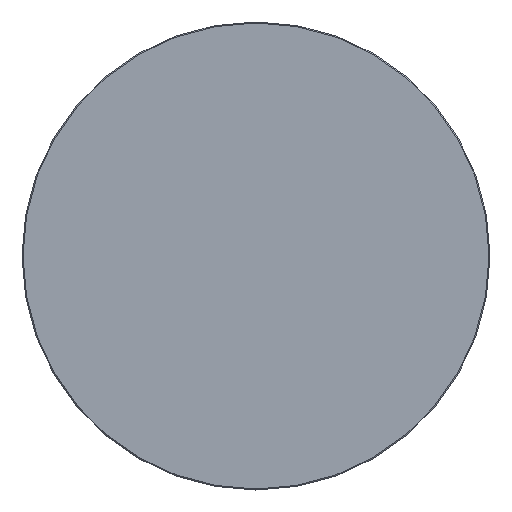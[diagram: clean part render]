
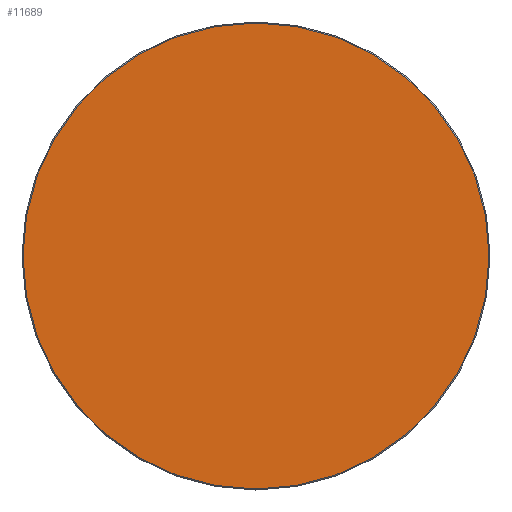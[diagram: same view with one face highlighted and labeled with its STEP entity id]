
A CAD part, top view. The second image highlights one B-rep face of the part: STEP entity #11689.
In plain terms, the highlighted planar face has unit normal (0, 0, 1).
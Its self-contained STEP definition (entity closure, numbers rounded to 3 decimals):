
#11614=CARTESIAN_POINT('',(0.,0.,20.));
#11615=DIRECTION('',(1.,0.,0.));
#11616=DIRECTION('',(0.,0.,1.));
#11617=AXIS2_PLACEMENT_3D('',#11614,#11616,#11615);
#11618=PLANE('',#11617);
#11619=CARTESIAN_POINT('',(-0.5,-348.5,20.));
#11620=VERTEX_POINT('',#11619);
#11621=CARTESIAN_POINT('',(0.5,-348.5,20.));
#11622=VERTEX_POINT('',#11621);
#11623=CARTESIAN_POINT('',(-0.5,-348.5,20.));
#11624=DIRECTION('',(1.,0.,0.));
#11625=VECTOR('',#11624,1.);
#11626=LINE('',#11623,#11625);
#11627=EDGE_CURVE('',#11620,#11622,#11626,.T.);
#11628=ORIENTED_EDGE('E105',*,*,#11627,.T.);
#11629=CARTESIAN_POINT('',(348.5,-0.5,20.));
#11630=VERTEX_POINT('',#11629);
#11631=CARTESIAN_POINT('',(0.5,-0.5,20.));
#11632=DIRECTION('',(0.,-1.,0.));
#11633=DIRECTION('',(0.,-0.,1.));
#11634=AXIS2_PLACEMENT_3D('',#11631,#11633,#11632);
#11635=CIRCLE('',#11634,348.);
#11636=EDGE_CURVE('',#11622,#11630,#11635,.T.);
#11637=ORIENTED_EDGE('E107',*,*,#11636,.T.);
#11638=CARTESIAN_POINT('',(348.5,0.5,20.));
#11639=VERTEX_POINT('',#11638);
#11640=CARTESIAN_POINT('',(348.5,-0.5,20.));
#11641=DIRECTION('',(0.,1.,0.));
#11642=VECTOR('',#11641,1.);
#11643=LINE('',#11640,#11642);
#11644=EDGE_CURVE('',#11630,#11639,#11643,.T.);
#11645=ORIENTED_EDGE('E109',*,*,#11644,.T.);
#11646=CARTESIAN_POINT('',(0.5,348.5,20.));
#11647=VERTEX_POINT('',#11646);
#11648=CARTESIAN_POINT('',(0.5,0.5,20.));
#11649=DIRECTION('',(1.,0.,0.));
#11650=DIRECTION('',(0.,0.,1.));
#11651=AXIS2_PLACEMENT_3D('',#11648,#11650,#11649);
#11652=CIRCLE('',#11651,348.);
#11653=EDGE_CURVE('',#11639,#11647,#11652,.T.);
#11654=ORIENTED_EDGE('E111',*,*,#11653,.T.);
#11655=CARTESIAN_POINT('',(-0.5,348.5,20.));
#11656=VERTEX_POINT('',#11655);
#11657=CARTESIAN_POINT('',(0.5,348.5,20.));
#11658=DIRECTION('',(-1.,0.,0.));
#11659=VECTOR('',#11658,1.);
#11660=LINE('',#11657,#11659);
#11661=EDGE_CURVE('',#11647,#11656,#11660,.T.);
#11662=ORIENTED_EDGE('E113',*,*,#11661,.T.);
#11663=CARTESIAN_POINT('',(-348.5,0.5,20.));
#11664=VERTEX_POINT('',#11663);
#11665=CARTESIAN_POINT('',(-0.5,0.5,20.));
#11666=DIRECTION('',(0.,1.,0.));
#11667=DIRECTION('',(0.,0.,1.));
#11668=AXIS2_PLACEMENT_3D('',#11665,#11667,#11666);
#11669=CIRCLE('',#11668,348.);
#11670=EDGE_CURVE('',#11656,#11664,#11669,.T.);
#11671=ORIENTED_EDGE('E115',*,*,#11670,.T.);
#11672=CARTESIAN_POINT('',(-348.5,-0.5,20.));
#11673=VERTEX_POINT('',#11672);
#11674=CARTESIAN_POINT('',(-348.5,0.5,20.));
#11675=DIRECTION('',(0.,-1.,0.));
#11676=VECTOR('',#11675,1.);
#11677=LINE('',#11674,#11676);
#11678=EDGE_CURVE('',#11664,#11673,#11677,.T.);
#11679=ORIENTED_EDGE('E117',*,*,#11678,.T.);
#11680=CARTESIAN_POINT('',(-0.5,-0.5,20.));
#11681=DIRECTION('',(-1.,0.,0.));
#11682=DIRECTION('',(0.,0.,1.));
#11683=AXIS2_PLACEMENT_3D('',#11680,#11682,#11681);
#11684=CIRCLE('',#11683,348.);
#11685=EDGE_CURVE('',#11673,#11620,#11684,.T.);
#11686=ORIENTED_EDGE('E119',*,*,#11685,.T.);
#11687=EDGE_LOOP('',(#11628,#11637,#11645,#11654,#11662,#11671,#11679,#11686));
#11688=FACE_OUTER_BOUND('',#11687,.T.);
#11689=ADVANCED_FACE('F2',(#11688),#11618,.T.);
